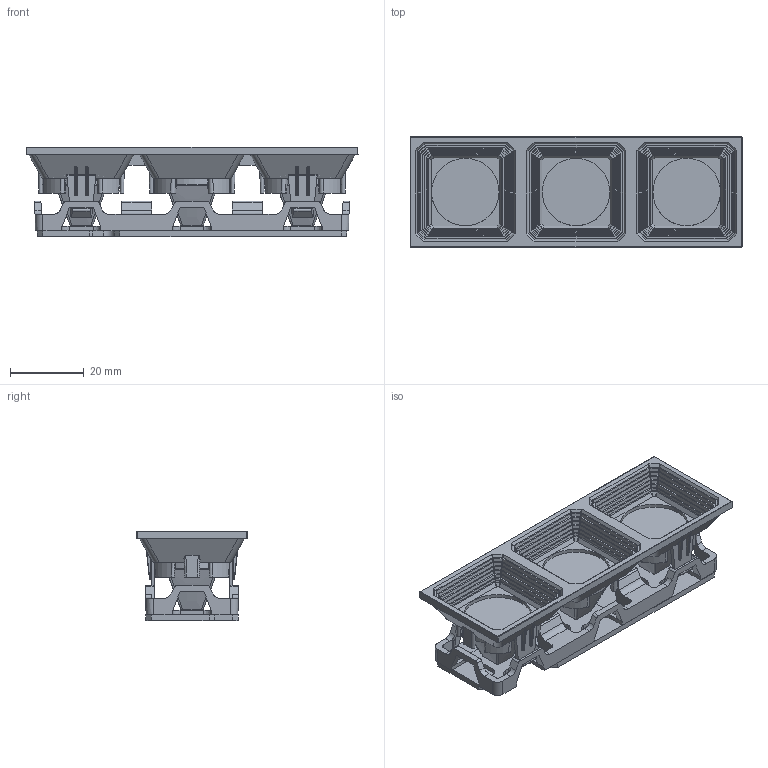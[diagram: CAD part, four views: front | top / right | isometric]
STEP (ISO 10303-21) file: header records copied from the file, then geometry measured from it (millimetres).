
FILE_DESCRIPTION(('Creo Elements/Direct Modeling STEP Export'),'2;1');
FILE_NAME('91702_z.stp','2026-09-14T 8:39:10',(''),(''),'Creo Elements/Direct Modeling STEP processor for AP214 (Solid Model)','Creo Elements/Direct Modeling 20.9 29-May-2026 (C) Parametric Technology GmbH','');
FILE_SCHEMA(('AUTOMOTIVE_DESIGN { 1 0 10303 214 1 1 1 1 }'));
Length unit declared in the file: millimetre
Products named in the file (8): 91755.1.1; 91755; 91755.1; 91792; 91702; LED-Board_84mm; 91702_z
Assembly tree (7 placements, depth 3):
  91702_z
    LED-Board_84mm
    91702
    91792
    91755
      91755.1
      91755
      91755.1.1
Bounding box: 90 x 30 x 24.2 mm (x, y, z)
Volume: 17101.3 mm3; surface area: 21650.3 mm2
Topology: 6 solids, 6 shells, 1650 faces, 4492 edges, 2849 vertices
Faces by surface type: plane 750, cylinder 560, bspline 163, cone 120, sphere 35, torus 22
Entity records: 84474 total; most frequent: CARTESIAN_POINT 36006, ORIENTED_EDGE 8914, DIRECTION 7960, EDGE_CURVE 4457, VERTEX_POINT 2849, AXIS2_PLACEMENT_3D 2656, VECTOR 2648, LINE 2648
